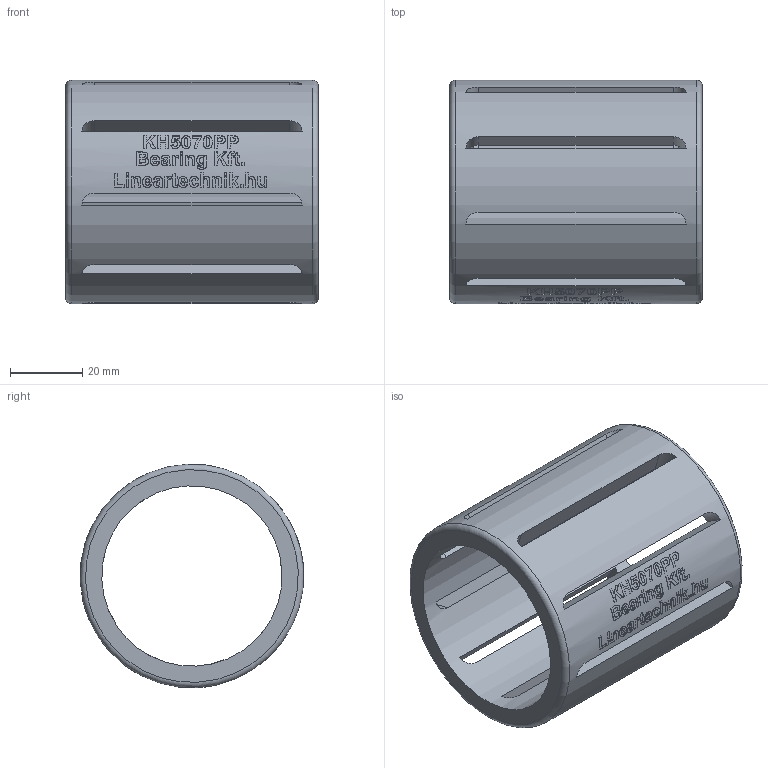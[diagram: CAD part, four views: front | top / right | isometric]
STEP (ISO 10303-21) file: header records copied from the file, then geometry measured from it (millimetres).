
FILE_DESCRIPTION(/* description */ (''),/* implementation_level */ '2;1');
FILE_NAME(/* name */ 'KH5070PP',/* time_stamp */ '2019-07-11T11:31:49+02:00',/* author */ ('VĂ©gh MĂˇtĂ©'),/* organization */ ('Bearing Kft'),/* preprocessor_version */ 'ST-DEVELOPER v16.7',/* originating_system */ 'DEX',/* authorisation */ $);
FILE_SCHEMA (('AP242_MANAGED_MODEL_BASED_3D_ENGINEERING_MIM_LF { 1 0 10303 442 1 1 4 }','AUTOMOTIVE_DESIGN {1 0 10303 214 3 1 1}'));
Length unit declared in the file: millimetre
Products named in the file (1): KH5070PP
Bounding box: 70 x 61.96 x 61.91 mm (x, y, z)
Volume: 62413.4 mm3; surface area: 29610.9 mm2
Topology: 1 solids, 1 shells, 354 faces, 905 edges, 603 vertices
Faces by surface type: plane 183, bspline 99, cylinder 70, torus 2
Full cylindrical faces by diameter (mm): 50 x1, 62 x1
Entity records: 19125 total; most frequent: CARTESIAN_POINT 11089, ORIENTED_EDGE 1792, DIRECTION 1327, EDGE_CURVE 896, VERTEX_POINT 603, LINE 501, VECTOR 501, EDGE_LOOP 433
